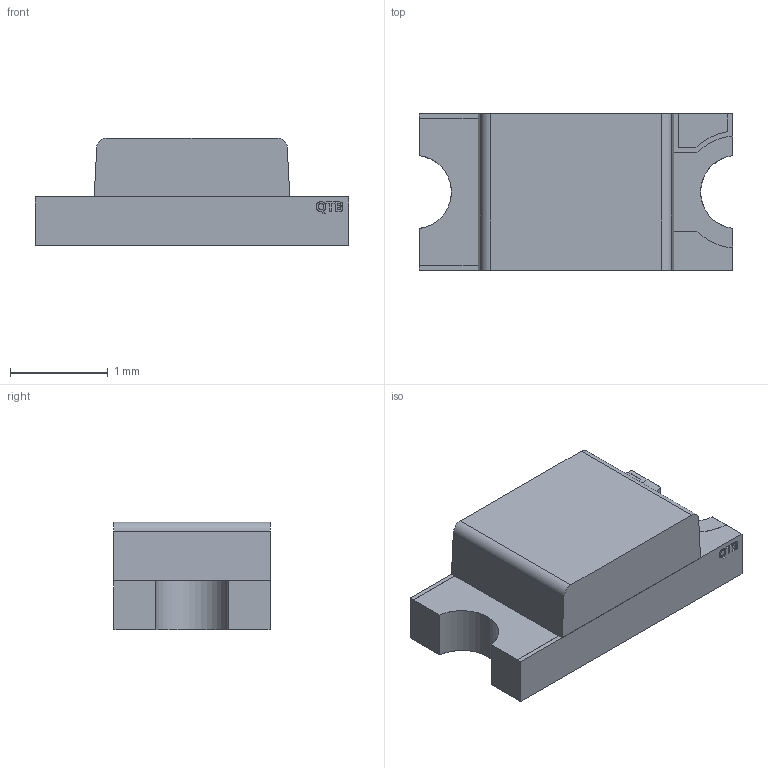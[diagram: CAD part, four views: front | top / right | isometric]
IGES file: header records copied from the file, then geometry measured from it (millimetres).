
Start section: Data from Parasolid IGES Translator 23.1.110, Copyright(c) 2006 Siemens PLM Software. All Rights Reserved.
Global section: file name: 5fab0c8e5ed59b0f42ef635c.iges; native system: By Siemens PLM Incorporated; preprocessor: XPlus GENERIC/IGES 23.1.110; author: Noname; organization: Noname; date: 20201110.215631; units: metre
Bounding box: 3.2 x 1.6 x 1.1 mm (x, y, z)
Surface area: 32.6 mm2 (no closed solid volume)
Topology: 0 solids, 0 shells, 137 faces, 728 edges, 728 vertices
Faces by surface type: extrusion 120, revolution 17
